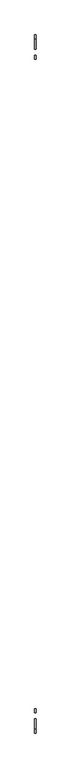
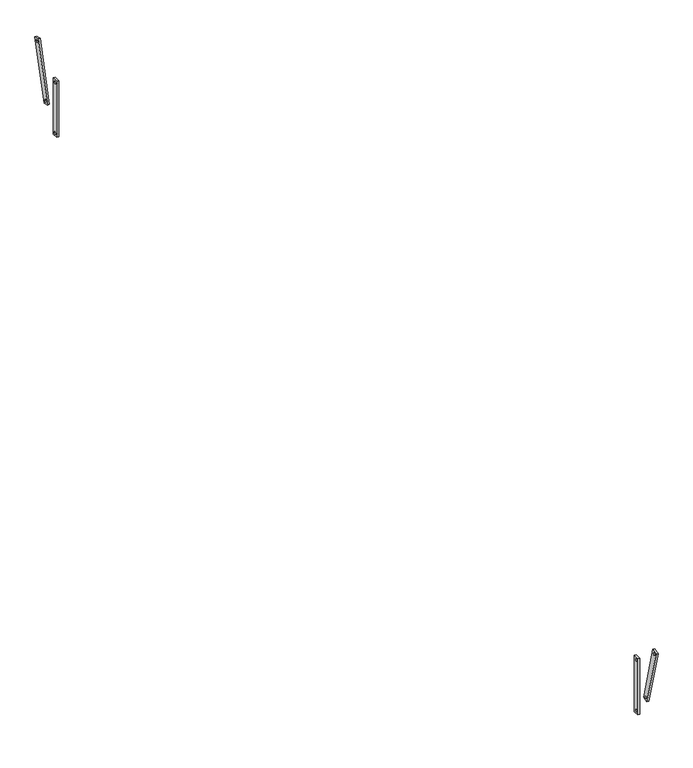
"""IFC4 building model written with IfcOpenShell, lengths in millimetres: proxy geometry, Modelos genéricos 283 : Modelos genéricos 278."""

from ifc_helpers import new_model, si_unit, point, frame, frame_2d, origin, place, context, project, spatial, polyline, circle_curve, trimmed, segment, composite_curve, outline, extrude, source, transform, mapped, element, save


def generic_models_6915e534(model_context):
    return source(origin(), model_context, "Body", "SweptSolid", [
        extrude(outline(polyline([(5318.6238165, 2800.0), (5318.6238165, 3200.0), (5358.6238165, 3200.0), (5358.6238165, 2800.0), (5318.6238165, 2800.0)]), holes=[composite_curve([segment(trimmed(circle_curve(frame_2d((5338.6238165, 3180.0)), 7.5), [point((5346.1238165, 3180.0))], [point((5331.1238165, 3180.0))], True, "CARTESIAN"), True, "CONTINUOUS"), segment(trimmed(circle_curve(frame_2d((5338.6238165, 3180.0)), 7.5), [point((5331.1238165, 3180.0))], [point((5346.1238165, 3180.0))], True, "CARTESIAN"), True, "CONTINUOUS")], self_intersect=False), composite_curve([segment(trimmed(circle_curve(frame_2d((5338.6238165, 2820.0)), 7.5), [point((5346.1238165, 2820.0))], [point((5331.1238165, 2820.0))], True, "CARTESIAN"), True, "CONTINUOUS"), segment(trimmed(circle_curve(frame_2d((5338.6238165, 2820.0)), 7.5), [point((5331.1238165, 2820.0))], [point((5346.1238165, 2820.0))], True, "CARTESIAN"), True, "CONTINUOUS")], self_intersect=False)]), frame((-5316.5527533, 0.0, 0.0), z_axis=(1.0, 0.0, 0.0), x_axis=(0.0, 1.0, 0.0)), (0.0, 0.0, 1.0), 12.7),
        extrude(outline(polyline([(5424.7907615, 2966.5419368), (5533.4947604, 3372.2307838), (5572.1317934, 3361.878022), (5463.4277945, 2956.1891749), (5424.7907615, 2966.5419368)]), holes=[composite_curve([segment(trimmed(circle_curve(frame_2d((5547.636896, 3347.7358864)), 7.5), [point((5554.8813397, 3345.7947435))], [point((5540.3924523, 3349.6770292))], True, "CARTESIAN"), True, "CONTINUOUS"), segment(trimmed(circle_curve(frame_2d((5547.636896, 3347.7358864)), 7.5), [point((5540.3924523, 3349.6770292))], [point((5554.8813397, 3345.7947435))], True, "CARTESIAN"), True, "CONTINUOUS")], self_intersect=False), composite_curve([segment(trimmed(circle_curve(frame_2d((5449.2856589, 2980.6840724)), 7.5), [point((5456.5301026, 2978.7429295))], [point((5442.0412152, 2982.6252152))], True, "CARTESIAN"), True, "CONTINUOUS"), segment(trimmed(circle_curve(frame_2d((5449.2856589, 2980.6840724)), 7.5), [point((5442.0412152, 2982.6252152))], [point((5456.5301026, 2978.7429295))], True, "CARTESIAN"), True, "CONTINUOUS")], self_intersect=False)]), frame((-5316.5527533, 0.0, 0.0), z_axis=(1.0, 0.0, 0.0), x_axis=(0.0, 1.0, 0.0)), (0.0, 0.0, 1.0), 12.7),
        extrude(outline(polyline([(-1421.3761835, 2800.0), (-1461.3761835, 2800.0), (-1461.3761835, 3200.0), (-1421.3761835, 3200.0), (-1421.3761835, 2800.0)]), holes=[composite_curve([segment(trimmed(circle_curve(frame_2d((-1441.3761835, 3180.0)), 7.5), [point((-1448.8761835, 3180.0))], [point((-1433.8761835, 3180.0))], True, "CARTESIAN"), True, "CONTINUOUS"), segment(trimmed(circle_curve(frame_2d((-1441.3761835, 3180.0)), 7.5), [point((-1433.8761835, 3180.0))], [point((-1448.8761835, 3180.0))], True, "CARTESIAN"), True, "CONTINUOUS")], self_intersect=False), composite_curve([segment(trimmed(circle_curve(frame_2d((-1441.3761835, 2820.0)), 7.5), [point((-1448.8761835, 2820.0))], [point((-1433.8761835, 2820.0))], True, "CARTESIAN"), True, "CONTINUOUS"), segment(trimmed(circle_curve(frame_2d((-1441.3761835, 2820.0)), 7.5), [point((-1433.8761835, 2820.0))], [point((-1448.8761835, 2820.0))], True, "CARTESIAN"), True, "CONTINUOUS")], self_intersect=False)]), frame((-5316.5527533, 0.0, 0.0), z_axis=(1.0, 0.0, 0.0), x_axis=(0.0, 1.0, 0.0)), (0.0, 0.0, 1.0), 12.7),
        extrude(outline(polyline([(-1527.5431285, 2966.5419368), (-1566.1801615, 2956.1891749), (-1674.8841605, 3361.878022), (-1636.2471274, 3372.2307838), (-1527.5431285, 2966.5419368)]), holes=[composite_curve([segment(trimmed(circle_curve(frame_2d((-1650.389263, 3347.7358864)), 7.5), [point((-1657.6337067, 3345.7947435))], [point((-1643.1448193, 3349.6770292))], True, "CARTESIAN"), True, "CONTINUOUS"), segment(trimmed(circle_curve(frame_2d((-1650.389263, 3347.7358864)), 7.5), [point((-1643.1448193, 3349.6770292))], [point((-1657.6337067, 3345.7947435))], True, "CARTESIAN"), True, "CONTINUOUS")], self_intersect=False), composite_curve([segment(trimmed(circle_curve(frame_2d((-1552.0380259, 2980.6840724)), 7.5), [point((-1559.2824696, 2978.7429295))], [point((-1544.7935822, 2982.6252152))], True, "CARTESIAN"), True, "CONTINUOUS"), segment(trimmed(circle_curve(frame_2d((-1552.0380259, 2980.6840724)), 7.5), [point((-1544.7935822, 2982.6252152))], [point((-1559.2824696, 2978.7429295))], True, "CARTESIAN"), True, "CONTINUOUS")], self_intersect=False)]), frame((-5316.5527533, 0.0, 0.0), z_axis=(1.0, 0.0, 0.0), x_axis=(0.0, 1.0, 0.0)), (0.0, 0.0, 1.0), 12.7),
    ])


if __name__ == "__main__":
    model = new_model("IFC4")
    model_context = context("Model", 3, world=origin())
    ifc_project = project(units=[si_unit("LENGTHUNIT", "METRE", prefix="MILLI")], contexts=[model_context])
    site = spatial("IfcSite", under=ifc_project)
    building = spatial("IfcBuilding", under=site)
    placement = place(None, origin())
    generic_models_shape = generic_models_6915e534(model_context)
    element("IfcBuildingElementProxy", 1, Name="Modelos genéricos 283 : Modelos genéricos 278", ObjectType="Modelos genéricos 283 : Modelos genéricos 278", at=placement, inside=building, context=model_context, shape_type="MappedRepresentation", body=[
        mapped(generic_models_shape, transform((0.0, 0.0, 0.0), x_axis=(1.0, 0.0, 0.0), y_axis=(0.0, 1.0, 0.0), z_axis=(0.0, 0.0, 1.0))),
    ])
    save(model, "model.ifc")
